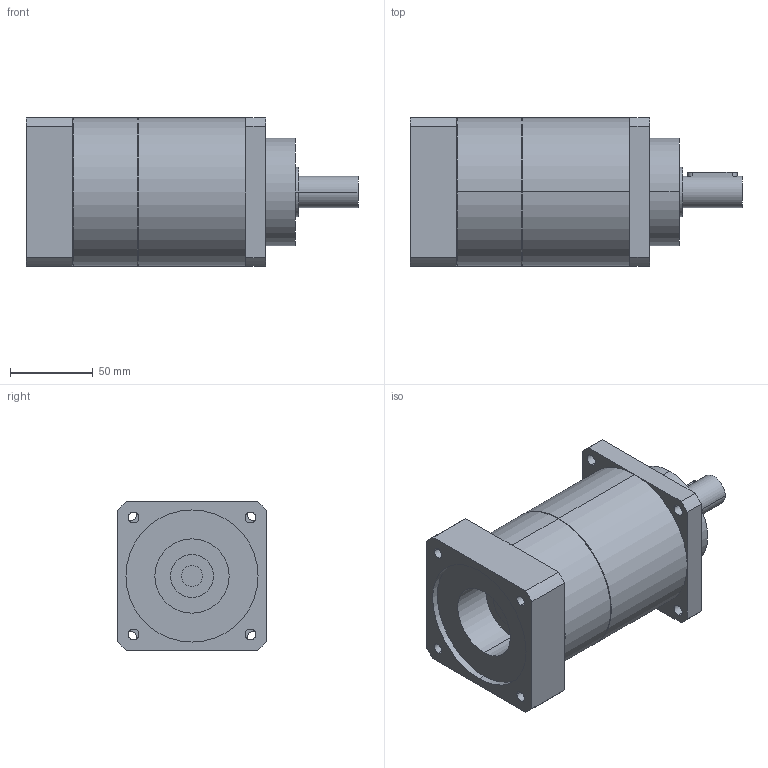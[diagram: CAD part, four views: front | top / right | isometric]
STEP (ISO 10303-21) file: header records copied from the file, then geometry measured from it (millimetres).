
FILE_DESCRIPTION(('CoCreate Modeling STEP Export'),'2;1');
FILE_NAME('GPT90_ig-9-12-16-20-25-28-35-40-50-70-100_19_B5T_12.7_P28.stp','2015-02-04T11:27:52',(''),(''),'CoCreate Modeling STEP processor for AP214 (Solid Model)','CoCreate Modeling 16.00C 25-Feb-2009 (C) Parametric Technology GmbH','');
FILE_SCHEMA(('AUTOMOTIVE_DESIGN { 1 0 10303 214 1 1 1 1 }'));
Length unit declared in the file: millimetre
Products named in the file (2): GPT90_ig-9-12-16-20-25-28-35-40-50-70-100_19_B5T_12.7_P28
Assembly tree (1 placements, depth 2):
  GPT90_ig-9-12-16-20-25-28-35-40-50-70-100_19_B5T_12.7_P28
    GPT90_ig-9-12-16-20-25-28-35-40-50-70-100_19_B5T_12.7_P28
Bounding box: 201 x 90 x 90 mm (x, y, z)
Volume: 994420.1 mm3; surface area: 78762.7 mm2
Topology: 1 solids, 1 shells, 77 faces, 206 edges, 141 vertices
Faces by surface type: cylinder 46, plane 27, cone 4
Entity records: 2596 total; most frequent: CARTESIAN_POINT 742, ORIENTED_EDGE 412, DIRECTION 324, EDGE_CURVE 206, VERTEX_POINT 141, AXIS2_PLACEMENT_3D 120, EDGE_LOOP 103, VECTOR 84
